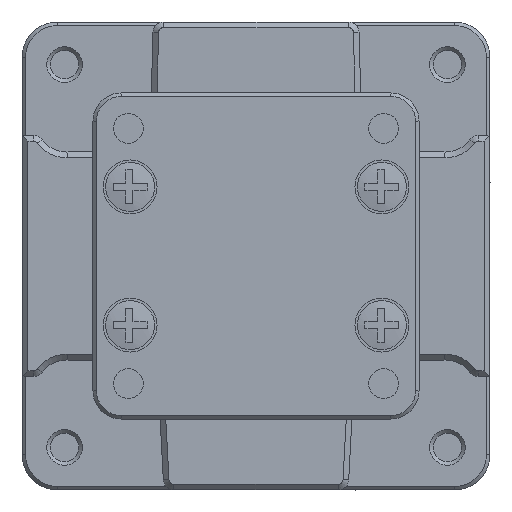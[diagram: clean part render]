
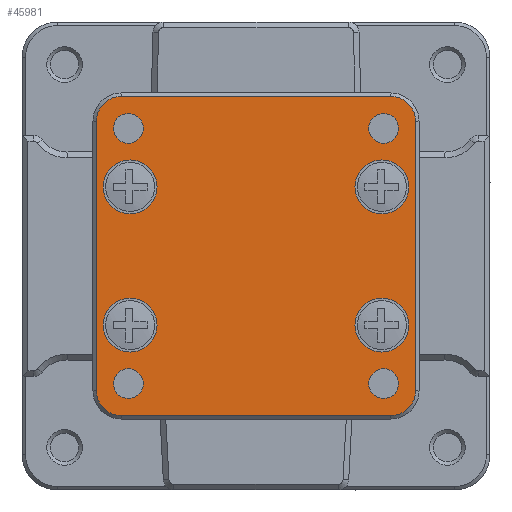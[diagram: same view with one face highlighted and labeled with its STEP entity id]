
A CAD part, front view. The second image highlights one B-rep face of the part: STEP entity #45981.
In plain terms, the highlighted planar face has unit normal (0, -1, 0).
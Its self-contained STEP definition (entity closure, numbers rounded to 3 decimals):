
#2588=FACE_BOUND('',#10076,.T.);
#2589=FACE_BOUND('',#10077,.T.);
#2590=FACE_BOUND('',#10078,.T.);
#2591=FACE_BOUND('',#10079,.T.);
#2592=FACE_BOUND('',#10080,.T.);
#2593=FACE_BOUND('',#10081,.T.);
#2594=FACE_BOUND('',#10082,.T.);
#2595=FACE_BOUND('',#10083,.T.);
#4614=CIRCLE('',#49856,3.5);
#4615=CIRCLE('',#49857,3.5);
#4616=CIRCLE('',#49858,3.5);
#4617=CIRCLE('',#49859,3.5);
#4618=CIRCLE('',#49860,3.8);
#4619=CIRCLE('',#49861,3.8);
#4620=CIRCLE('',#49862,3.8);
#4621=CIRCLE('',#49863,3.8);
#4622=CIRCLE('',#49864,3.8);
#4623=CIRCLE('',#49865,3.8);
#4624=CIRCLE('',#49866,3.8);
#4625=CIRCLE('',#49867,3.8);
#4626=CIRCLE('',#49868,2.1);
#4627=CIRCLE('',#49869,2.1);
#4628=CIRCLE('',#49870,2.1);
#4629=CIRCLE('',#49871,2.1);
#7403=FACE_OUTER_BOUND('',#10075,.T.);
#10075=EDGE_LOOP('',(#38407,#38408,#38409,#38410,#38411,#38412,#38413,#38414));
#10076=EDGE_LOOP('',(#38415,#38416));
#10077=EDGE_LOOP('',(#38417,#38418));
#10078=EDGE_LOOP('',(#38419,#38420));
#10079=EDGE_LOOP('',(#38421,#38422));
#10080=EDGE_LOOP('',(#38423));
#10081=EDGE_LOOP('',(#38424));
#10082=EDGE_LOOP('',(#38425));
#10083=EDGE_LOOP('',(#38426));
#13364=LINE('',#103801,#17228);
#13367=LINE('',#103808,#17231);
#13368=LINE('',#103812,#17232);
#13369=LINE('',#103816,#17233);
#17228=VECTOR('',#59533,38.);
#17231=VECTOR('',#59540,38.);
#17232=VECTOR('',#59543,38.);
#17233=VECTOR('',#59546,38.);
#21913=VERTEX_POINT('',#103799);
#21914=VERTEX_POINT('',#103800);
#21915=VERTEX_POINT('',#103805);
#21916=VERTEX_POINT('',#103807);
#21917=VERTEX_POINT('',#103809);
#21918=VERTEX_POINT('',#103811);
#21919=VERTEX_POINT('',#103813);
#21920=VERTEX_POINT('',#103815);
#21921=VERTEX_POINT('',#103818);
#21922=VERTEX_POINT('',#103819);
#21923=VERTEX_POINT('',#103822);
#21924=VERTEX_POINT('',#103823);
#21925=VERTEX_POINT('',#103826);
#21926=VERTEX_POINT('',#103827);
#21927=VERTEX_POINT('',#103830);
#21928=VERTEX_POINT('',#103831);
#21929=VERTEX_POINT('',#103834);
#21930=VERTEX_POINT('',#103836);
#21931=VERTEX_POINT('',#103838);
#21932=VERTEX_POINT('',#103840);
#27682=EDGE_CURVE('',#21913,#21914,#13364,.T.);
#27685=EDGE_CURVE('',#21915,#21914,#4614,.T.);
#27686=EDGE_CURVE('',#21915,#21916,#13367,.T.);
#27687=EDGE_CURVE('',#21917,#21916,#4615,.T.);
#27688=EDGE_CURVE('',#21917,#21918,#13368,.T.);
#27689=EDGE_CURVE('',#21919,#21918,#4616,.T.);
#27690=EDGE_CURVE('',#21919,#21920,#13369,.T.);
#27691=EDGE_CURVE('',#21913,#21920,#4617,.T.);
#27692=EDGE_CURVE('',#21921,#21922,#4618,.T.);
#27693=EDGE_CURVE('',#21922,#21921,#4619,.T.);
#27694=EDGE_CURVE('',#21923,#21924,#4620,.T.);
#27695=EDGE_CURVE('',#21924,#21923,#4621,.T.);
#27696=EDGE_CURVE('',#21925,#21926,#4622,.T.);
#27697=EDGE_CURVE('',#21926,#21925,#4623,.T.);
#27698=EDGE_CURVE('',#21927,#21928,#4624,.T.);
#27699=EDGE_CURVE('',#21928,#21927,#4625,.T.);
#27700=EDGE_CURVE('',#21929,#21929,#4626,.T.);
#27701=EDGE_CURVE('',#21930,#21930,#4627,.T.);
#27702=EDGE_CURVE('',#21931,#21931,#4628,.T.);
#27703=EDGE_CURVE('',#21932,#21932,#4629,.T.);
#38407=ORIENTED_EDGE('',*,*,#27685,.F.);
#38408=ORIENTED_EDGE('',*,*,#27686,.T.);
#38409=ORIENTED_EDGE('',*,*,#27687,.F.);
#38410=ORIENTED_EDGE('',*,*,#27688,.T.);
#38411=ORIENTED_EDGE('',*,*,#27689,.F.);
#38412=ORIENTED_EDGE('',*,*,#27690,.T.);
#38413=ORIENTED_EDGE('',*,*,#27691,.F.);
#38414=ORIENTED_EDGE('',*,*,#27682,.T.);
#38415=ORIENTED_EDGE('',*,*,#27692,.F.);
#38416=ORIENTED_EDGE('',*,*,#27693,.F.);
#38417=ORIENTED_EDGE('',*,*,#27694,.F.);
#38418=ORIENTED_EDGE('',*,*,#27695,.F.);
#38419=ORIENTED_EDGE('',*,*,#27696,.F.);
#38420=ORIENTED_EDGE('',*,*,#27697,.F.);
#38421=ORIENTED_EDGE('',*,*,#27698,.F.);
#38422=ORIENTED_EDGE('',*,*,#27699,.F.);
#38423=ORIENTED_EDGE('',*,*,#27700,.F.);
#38424=ORIENTED_EDGE('',*,*,#27701,.F.);
#38425=ORIENTED_EDGE('',*,*,#27702,.F.);
#38426=ORIENTED_EDGE('',*,*,#27703,.F.);
#43729=PLANE('',#49855);
#45981=ADVANCED_FACE('',(#7403,#2588,#2589,#2590,#2591,#2592,#2593,#2594,
#2595),#43729,.T.);
#49855=AXIS2_PLACEMENT_3D('',#103804,#59536,#59537);
#49856=AXIS2_PLACEMENT_3D('',#103806,#59538,#59539);
#49857=AXIS2_PLACEMENT_3D('',#103810,#59541,#59542);
#49858=AXIS2_PLACEMENT_3D('',#103814,#59544,#59545);
#49859=AXIS2_PLACEMENT_3D('',#103817,#59547,#59548);
#49860=AXIS2_PLACEMENT_3D('',#103820,#59549,#59550);
#49861=AXIS2_PLACEMENT_3D('',#103821,#59551,#59552);
#49862=AXIS2_PLACEMENT_3D('',#103824,#59553,#59554);
#49863=AXIS2_PLACEMENT_3D('',#103825,#59555,#59556);
#49864=AXIS2_PLACEMENT_3D('',#103828,#59557,#59558);
#49865=AXIS2_PLACEMENT_3D('',#103829,#59559,#59560);
#49866=AXIS2_PLACEMENT_3D('',#103832,#59561,#59562);
#49867=AXIS2_PLACEMENT_3D('',#103833,#59563,#59564);
#49868=AXIS2_PLACEMENT_3D('',#103835,#59565,#59566);
#49869=AXIS2_PLACEMENT_3D('',#103837,#59567,#59568);
#49870=AXIS2_PLACEMENT_3D('',#103839,#59569,#59570);
#49871=AXIS2_PLACEMENT_3D('',#103841,#59571,#59572);
#59533=DIRECTION('',(1.,0.,0.));
#59536=DIRECTION('center_axis',(0.,-1.,0.));
#59537=DIRECTION('ref_axis',(1.,0.,0.));
#59538=DIRECTION('center_axis',(0.,1.,0.));
#59539=DIRECTION('ref_axis',(1.,0.,0.));
#59540=DIRECTION('',(0.,0.,1.));
#59541=DIRECTION('center_axis',(0.,1.,0.));
#59542=DIRECTION('ref_axis',(0.,0.,1.));
#59543=DIRECTION('',(-1.,0.,0.));
#59544=DIRECTION('center_axis',(0.,1.,0.));
#59545=DIRECTION('ref_axis',(-1.,0.,0.));
#59546=DIRECTION('',(0.,0.,-1.));
#59547=DIRECTION('center_axis',(0.,1.,0.));
#59548=DIRECTION('ref_axis',(0.,0.,-1.));
#59549=DIRECTION('center_axis',(0.,-1.,0.));
#59550=DIRECTION('ref_axis',(1.,0.,0.));
#59551=DIRECTION('center_axis',(0.,-1.,0.));
#59552=DIRECTION('ref_axis',(1.,0.,0.));
#59553=DIRECTION('center_axis',(0.,-1.,0.));
#59554=DIRECTION('ref_axis',(1.,0.,0.));
#59555=DIRECTION('center_axis',(0.,-1.,0.));
#59556=DIRECTION('ref_axis',(1.,0.,0.));
#59557=DIRECTION('center_axis',(0.,-1.,0.));
#59558=DIRECTION('ref_axis',(1.,0.,0.));
#59559=DIRECTION('center_axis',(0.,-1.,0.));
#59560=DIRECTION('ref_axis',(1.,0.,0.));
#59561=DIRECTION('center_axis',(0.,-1.,0.));
#59562=DIRECTION('ref_axis',(1.,0.,0.));
#59563=DIRECTION('center_axis',(0.,-1.,0.));
#59564=DIRECTION('ref_axis',(1.,0.,0.));
#59565=DIRECTION('center_axis',(0.,-1.,0.));
#59566=DIRECTION('ref_axis',(1.,0.,0.));
#59567=DIRECTION('center_axis',(0.,-1.,0.));
#59568=DIRECTION('ref_axis',(1.,0.,0.));
#59569=DIRECTION('center_axis',(0.,-1.,0.));
#59570=DIRECTION('ref_axis',(1.,0.,0.));
#59571=DIRECTION('center_axis',(0.,-1.,0.));
#59572=DIRECTION('ref_axis',(1.,0.,0.));
#103799=CARTESIAN_POINT('',(-19.,-20.8,-22.5));
#103800=CARTESIAN_POINT('',(19.,-20.8,-22.5));
#103801=CARTESIAN_POINT('',(-19.,-20.8,-22.5));
#103804=CARTESIAN_POINT('Origin',(0.,-20.8,0.));
#103805=CARTESIAN_POINT('',(22.5,-20.8,-19.));
#103806=CARTESIAN_POINT('Origin',(19.,-20.8,-19.));
#103807=CARTESIAN_POINT('',(22.5,-20.8,19.));
#103808=CARTESIAN_POINT('',(22.5,-20.8,-19.));
#103809=CARTESIAN_POINT('',(19.,-20.8,22.5));
#103810=CARTESIAN_POINT('Origin',(19.,-20.8,19.));
#103811=CARTESIAN_POINT('',(-19.,-20.8,22.5));
#103812=CARTESIAN_POINT('',(19.,-20.8,22.5));
#103813=CARTESIAN_POINT('',(-22.5,-20.8,19.));
#103814=CARTESIAN_POINT('Origin',(-19.,-20.8,19.));
#103815=CARTESIAN_POINT('',(-22.5,-20.8,-19.));
#103816=CARTESIAN_POINT('',(-22.5,-20.8,19.));
#103817=CARTESIAN_POINT('Origin',(-19.,-20.8,-19.));
#103818=CARTESIAN_POINT('',(-13.95,-20.8,9.75));
#103819=CARTESIAN_POINT('',(-21.55,-20.8,9.75));
#103820=CARTESIAN_POINT('Origin',(-17.75,-20.8,9.75));
#103821=CARTESIAN_POINT('Origin',(-17.75,-20.8,9.75));
#103822=CARTESIAN_POINT('',(21.55,-20.8,9.75));
#103823=CARTESIAN_POINT('',(13.95,-20.8,9.75));
#103824=CARTESIAN_POINT('Origin',(17.75,-20.8,9.75));
#103825=CARTESIAN_POINT('Origin',(17.75,-20.8,9.75));
#103826=CARTESIAN_POINT('',(-13.95,-20.8,-9.75));
#103827=CARTESIAN_POINT('',(-21.55,-20.8,-9.75));
#103828=CARTESIAN_POINT('Origin',(-17.75,-20.8,-9.75));
#103829=CARTESIAN_POINT('Origin',(-17.75,-20.8,-9.75));
#103830=CARTESIAN_POINT('',(21.55,-20.8,-9.75));
#103831=CARTESIAN_POINT('',(13.95,-20.8,-9.75));
#103832=CARTESIAN_POINT('Origin',(17.75,-20.8,-9.75));
#103833=CARTESIAN_POINT('Origin',(17.75,-20.8,-9.75));
#103834=CARTESIAN_POINT('',(-20.1,-20.8,18.));
#103835=CARTESIAN_POINT('Origin',(-18.,-20.8,18.));
#103836=CARTESIAN_POINT('',(15.9,-20.8,18.));
#103837=CARTESIAN_POINT('Origin',(18.,-20.8,18.));
#103838=CARTESIAN_POINT('',(-20.1,-20.8,-18.));
#103839=CARTESIAN_POINT('Origin',(-18.,-20.8,-18.));
#103840=CARTESIAN_POINT('',(15.9,-20.8,-18.));
#103841=CARTESIAN_POINT('Origin',(18.,-20.8,-18.));
